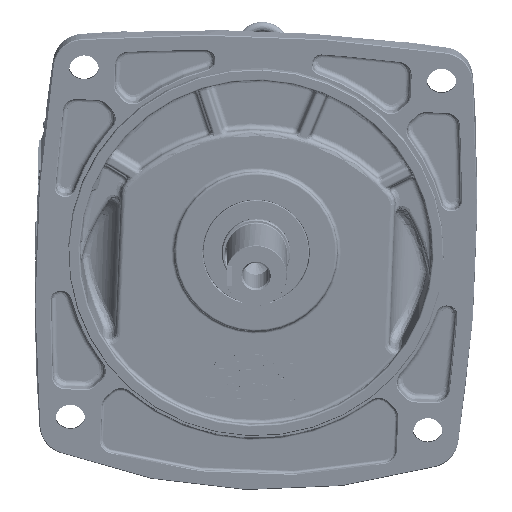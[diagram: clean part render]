
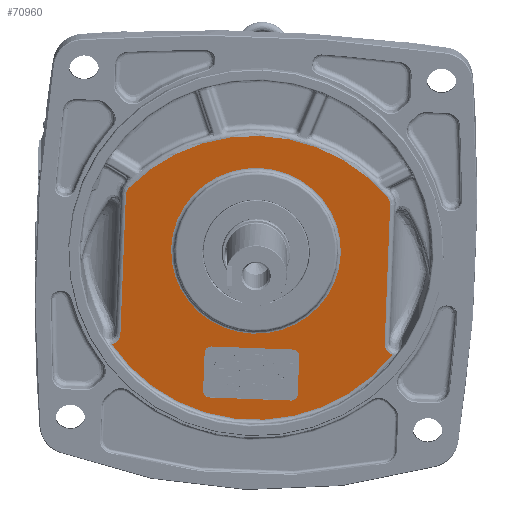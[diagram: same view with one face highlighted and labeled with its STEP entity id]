
A CAD part, top view. The second image highlights one B-rep face of the part: STEP entity #70960.
In plain terms, the highlighted planar face has unit normal (0, -0.216, 0.977).
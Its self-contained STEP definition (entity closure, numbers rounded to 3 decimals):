
#2957=LINE('',#157236,#6062);
#2958=LINE('',#157241,#6063);
#3020=LINE('',#160029,#6125);
#3021=LINE('',#160033,#6126);
#3022=LINE('',#160037,#6127);
#3023=LINE('',#160041,#6128);
#6062=VECTOR('',#92903,10.);
#6063=VECTOR('',#92908,10.);
#6125=VECTOR('',#93490,10.);
#6126=VECTOR('',#93493,10.);
#6127=VECTOR('',#93496,10.);
#6128=VECTOR('',#93499,10.);
#8458=FACE_BOUND('',#17513,.T.);
#8459=FACE_BOUND('',#17514,.T.);
#9364=PLANE('',#77808);
#13124=FACE_OUTER_BOUND('',#17512,.T.);
#17512=EDGE_LOOP('',(#58599,#58600,#58601,#58602,#58603,#58604,#58605,#58606));
#17513=EDGE_LOOP('',(#58607,#58608,#58609,#58610,#58611,#58612,#58613,#58614));
#17514=EDGE_LOOP('',(#58615));
#21760=CIRCLE('',#77588,52.);
#21825=CIRCLE('',#77698,106.076);
#21902=CIRCLE('',#77809,105.999);
#21903=CIRCLE('',#77810,4.);
#21904=CIRCLE('',#77811,4.);
#21905=CIRCLE('',#77812,4.);
#21906=CIRCLE('',#77813,4.);
#24817=B_SPLINE_CURVE_WITH_KNOTS('',3,(#157226,#157227,#157228,#157229,
#157230,#157231,#157232),.UNSPECIFIED.,.F.,.F.,(4,1,1,1,4),(0.,
0.257,0.513,0.77,0.896),
 .UNSPECIFIED.);
#24818=B_SPLINE_CURVE_WITH_KNOTS('',3,(#157270,#157271,#157272,#157273,
#157274),.UNSPECIFIED.,.F.,.F.,(4,1,4),(0.,0.217,0.507),
 .UNSPECIFIED.);
#24819=B_SPLINE_CURVE_WITH_KNOTS('',3,(#157302,#157303,#157304,#157305,
#157306),.UNSPECIFIED.,.F.,.F.,(4,1,4),(0.,0.29,0.507),
 .UNSPECIFIED.);
#24935=B_SPLINE_CURVE_WITH_KNOTS('',3,(#160021,#160022,#160023,#160024,
#160025,#160026),.UNSPECIFIED.,.F.,.F.,(4,1,1,4),(0.901,1.027,
1.54,1.797),.UNSPECIFIED.);
#30301=VERTEX_POINT('',#157212);
#30302=VERTEX_POINT('',#157224);
#30303=VERTEX_POINT('',#157234);
#30304=VERTEX_POINT('',#157238);
#30305=VERTEX_POINT('',#157240);
#30306=VERTEX_POINT('',#157268);
#30307=VERTEX_POINT('',#157300);
#30342=VERTEX_POINT('',#157792);
#30504=VERTEX_POINT('',#160019);
#30505=VERTEX_POINT('',#160027);
#30506=VERTEX_POINT('',#160028);
#30507=VERTEX_POINT('',#160030);
#30508=VERTEX_POINT('',#160032);
#30509=VERTEX_POINT('',#160034);
#30510=VERTEX_POINT('',#160036);
#30511=VERTEX_POINT('',#160038);
#30512=VERTEX_POINT('',#160040);
#39723=EDGE_CURVE('',#30302,#30301,#24817,.T.);
#39725=EDGE_CURVE('',#30303,#30302,#2957,.T.);
#39727=EDGE_CURVE('',#30304,#30305,#2958,.T.);
#39730=EDGE_CURVE('',#30306,#30303,#24818,.T.);
#39732=EDGE_CURVE('',#30305,#30307,#24819,.T.);
#39787=EDGE_CURVE('',#30342,#30342,#21760,.T.);
#39943=EDGE_CURVE('',#30307,#30306,#21825,.T.);
#40075=EDGE_CURVE('',#30301,#30504,#21902,.T.);
#40076=EDGE_CURVE('',#30504,#30304,#24935,.T.);
#40077=EDGE_CURVE('',#30505,#30506,#3020,.T.);
#40078=EDGE_CURVE('',#30507,#30506,#21903,.T.);
#40079=EDGE_CURVE('',#30507,#30508,#3021,.T.);
#40080=EDGE_CURVE('',#30509,#30508,#21904,.T.);
#40081=EDGE_CURVE('',#30509,#30510,#3022,.T.);
#40082=EDGE_CURVE('',#30511,#30510,#21905,.T.);
#40083=EDGE_CURVE('',#30511,#30512,#3023,.T.);
#40084=EDGE_CURVE('',#30505,#30512,#21906,.T.);
#58599=ORIENTED_EDGE('',*,*,#40075,.F.);
#58600=ORIENTED_EDGE('',*,*,#39723,.F.);
#58601=ORIENTED_EDGE('',*,*,#39725,.F.);
#58602=ORIENTED_EDGE('',*,*,#39730,.F.);
#58603=ORIENTED_EDGE('',*,*,#39943,.F.);
#58604=ORIENTED_EDGE('',*,*,#39732,.F.);
#58605=ORIENTED_EDGE('',*,*,#39727,.F.);
#58606=ORIENTED_EDGE('',*,*,#40076,.F.);
#58607=ORIENTED_EDGE('',*,*,#40077,.T.);
#58608=ORIENTED_EDGE('',*,*,#40078,.F.);
#58609=ORIENTED_EDGE('',*,*,#40079,.T.);
#58610=ORIENTED_EDGE('',*,*,#40080,.F.);
#58611=ORIENTED_EDGE('',*,*,#40081,.T.);
#58612=ORIENTED_EDGE('',*,*,#40082,.F.);
#58613=ORIENTED_EDGE('',*,*,#40083,.T.);
#58614=ORIENTED_EDGE('',*,*,#40084,.F.);
#58615=ORIENTED_EDGE('',*,*,#39787,.F.);
#70960=ADVANCED_FACE('',(#13124,#8458,#8459),#9364,.F.);
#77588=AXIS2_PLACEMENT_3D('',#157794,#93002,#93003);
#77698=AXIS2_PLACEMENT_3D('',#158675,#93254,#93255);
#77808=AXIS2_PLACEMENT_3D('',#160018,#93486,#93487);
#77809=AXIS2_PLACEMENT_3D('',#160020,#93488,#93489);
#77810=AXIS2_PLACEMENT_3D('',#160031,#93491,#93492);
#77811=AXIS2_PLACEMENT_3D('',#160035,#93494,#93495);
#77812=AXIS2_PLACEMENT_3D('',#160039,#93497,#93498);
#77813=AXIS2_PLACEMENT_3D('',#160042,#93500,#93501);
#92903=DIRECTION('',(-0.038,-0.976,-0.215));
#92908=DIRECTION('',(0.038,0.976,0.215));
#93002=DIRECTION('center_axis',(0.,-0.216,
0.976));
#93003=DIRECTION('ref_axis',(-0.999,0.037,0.008));
#93254=DIRECTION('center_axis',(0.,0.216,
-0.976));
#93255=DIRECTION('ref_axis',(0.038,0.976,0.215));
#93486=DIRECTION('center_axis',(0.,0.216,
-0.976));
#93487=DIRECTION('ref_axis',(-0.999,0.037,0.008));
#93488=DIRECTION('center_axis',(0.,0.216,
-0.976));
#93489=DIRECTION('ref_axis',(-0.038,-0.976,-0.215));
#93490=DIRECTION('',(0.038,0.976,0.215));
#93491=DIRECTION('center_axis',(0.,-0.216,
0.976));
#93492=DIRECTION('ref_axis',(-0.679,0.716,0.158));
#93493=DIRECTION('',(0.999,-0.037,-0.008));
#93494=DIRECTION('center_axis',(0.,-0.216,
0.976));
#93495=DIRECTION('ref_axis',(0.734,0.663,0.147));
#93496=DIRECTION('',(-0.038,-0.976,-0.215));
#93497=DIRECTION('center_axis',(0.,-0.216,
0.976));
#93498=DIRECTION('ref_axis',(0.679,-0.716,-0.158));
#93499=DIRECTION('',(-0.999,0.037,0.008));
#93500=DIRECTION('center_axis',(0.,-0.216,
0.976));
#93501=DIRECTION('ref_axis',(-0.734,-0.663,-0.147));
#157212=CARTESIAN_POINT('',(103.209,-25.549,85.881));
#157224=CARTESIAN_POINT('',(98.437,-18.799,87.372));
#157226=CARTESIAN_POINT('Ctrl Pts',(98.437,-18.799,
87.372));
#157227=CARTESIAN_POINT('Ctrl Pts',(98.404,-19.633,
87.188));
#157228=CARTESIAN_POINT('Ctrl Pts',(98.656,-21.333,
86.812));
#157229=CARTESIAN_POINT('Ctrl Pts',(99.948,-23.559,86.321));
#157230=CARTESIAN_POINT('Ctrl Pts',(101.628,-24.918,
86.02));
#157231=CARTESIAN_POINT('Ctrl Pts',(102.809,-25.418,
85.91));
#157232=CARTESIAN_POINT('Ctrl Pts',(103.21,-25.547,
85.882));
#157234=CARTESIAN_POINT('',(101.778,66.16,106.136));
#157236=CARTESIAN_POINT('',(97.408,-44.954,81.595));
#157238=CARTESIAN_POINT('',(-63.444,-12.727,88.713));
#157240=CARTESIAN_POINT('',(-60.102,72.231,107.476));
#157241=CARTESIAN_POINT('',(-64.473,-38.883,82.936));
#157268=CARTESIAN_POINT('',(100.185,70.773,107.154));
#157270=CARTESIAN_POINT('Ctrl Pts',(100.185,70.773,107.154));
#157271=CARTESIAN_POINT('Ctrl Pts',(100.646,70.227,107.034));
#157272=CARTESIAN_POINT('Ctrl Pts',(101.524,68.777,106.714));
#157273=CARTESIAN_POINT('Ctrl Pts',(101.815,67.102,106.344));
#157274=CARTESIAN_POINT('Ctrl Pts',(101.778,66.16,106.136));
#157300=CARTESIAN_POINT('',(-58.151,76.711,108.466));
#157302=CARTESIAN_POINT('Ctrl Pts',(-60.102,72.231,
107.476));
#157303=CARTESIAN_POINT('Ctrl Pts',(-60.065,73.173,
107.685));
#157304=CARTESIAN_POINT('Ctrl Pts',(-59.643,74.822,
108.049));
#157305=CARTESIAN_POINT('Ctrl Pts',(-58.653,76.202,
108.353));
#157306=CARTESIAN_POINT('Ctrl Pts',(-58.151,76.711,
108.466));
#157792=CARTESIAN_POINT('',(71.576,36.144,99.506));
#157794=CARTESIAN_POINT('Origin',(19.615,38.093,99.937));
#158675=CARTESIAN_POINT('Origin',(18.31,4.917,92.61));
#160018=CARTESIAN_POINT('Origin',(18.31,4.917,92.61));
#160019=CARTESIAN_POINT('',(-68.732,-19.101,87.305));
#160020=CARTESIAN_POINT('Origin',(19.615,38.093,99.937));
#160021=CARTESIAN_POINT('Ctrl Pts',(-68.733,-19.1,
87.306));
#160022=CARTESIAN_POINT('Ctrl Pts',(-68.323,-19.001,
87.327));
#160023=CARTESIAN_POINT('Ctrl Pts',(-66.29,-18.316,
87.479));
#160024=CARTESIAN_POINT('Ctrl Pts',(-64.043,-16.075,
87.974));
#160025=CARTESIAN_POINT('Ctrl Pts',(-63.477,-13.562,88.529));
#160026=CARTESIAN_POINT('Ctrl Pts',(-63.444,-12.727,
88.713));
#160027=CARTESIAN_POINT('',(-12.78,-47.662,80.997));
#160028=CARTESIAN_POINT('',(-11.859,-24.244,86.169));
#160029=CARTESIAN_POINT('',(-11.187,-7.169,89.941));
#160030=CARTESIAN_POINT('',(-7.708,-20.491,86.998));
#160031=CARTESIAN_POINT('Origin',(-7.861,-24.394,86.136));
#160032=CARTESIAN_POINT('',(42.255,-22.365,86.584));
#160033=CARTESIAN_POINT('',(31.763,-21.971,86.671));
#160034=CARTESIAN_POINT('',(46.099,-26.418,85.689));
#160035=CARTESIAN_POINT('Origin',(42.102,-26.268,85.722));
#160036=CARTESIAN_POINT('',(45.178,-49.836,80.517));
#160037=CARTESIAN_POINT('',(46.156,-24.954,86.013));
#160038=CARTESIAN_POINT('',(41.027,-53.589,79.688));
#160039=CARTESIAN_POINT('Origin',(41.181,-49.686,80.55));
#160040=CARTESIAN_POINT('',(-8.936,-51.715,80.102));
#160041=CARTESIAN_POINT('',(1.556,-52.109,80.015));
#160042=CARTESIAN_POINT('Origin',(-8.783,-47.812,80.964));
